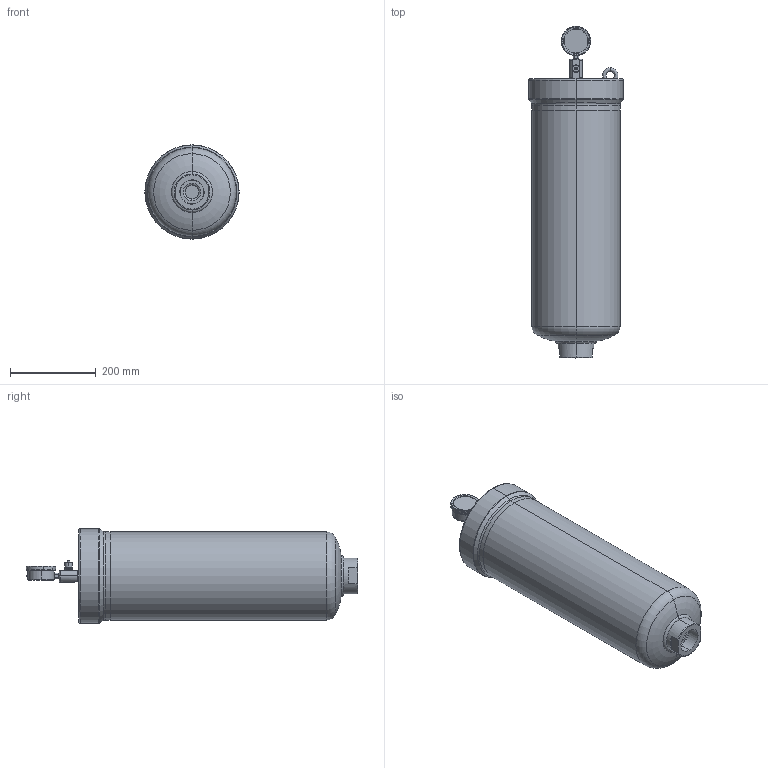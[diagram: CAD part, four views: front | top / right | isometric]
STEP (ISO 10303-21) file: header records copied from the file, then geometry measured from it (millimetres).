
FILE_DESCRIPTION (( 'STEP AP214' ), '1' );
FILE_NAME ('U150G03X1-AI (DGA).STEP', '2025-05-12T14:26:55', ( '' ), ( '' ), 'SwSTEP 2.0', 'SolidWorks 2024', '' );
FILE_SCHEMA (( 'AUTOMOTIVE_DESIGN' ));
Length unit declared in the file: millimetre
Products named in the file (1): U150G03X1-AI (DGA)
Bounding box: 220 x 774.89 x 220 mm (x, y, z)
Surface area: 536759.1 mm2 (no closed solid volume)
Topology: 0 solids, 16 shells, 472 faces, 1196 edges, 741 vertices
Faces by surface type: cylinder 136, plane 131, torus 76, cone 70, bspline 46, sphere 13
Entity records: 22552 total; most frequent: CARTESIAN_POINT 6055, DIRECTION 2443, ORIENTED_EDGE 2221, EDGE_CURVE 1185, AXIS2_PLACEMENT_3D 1013, VERTEX_POINT 741, CIRCLE 586, EDGE_LOOP 533
